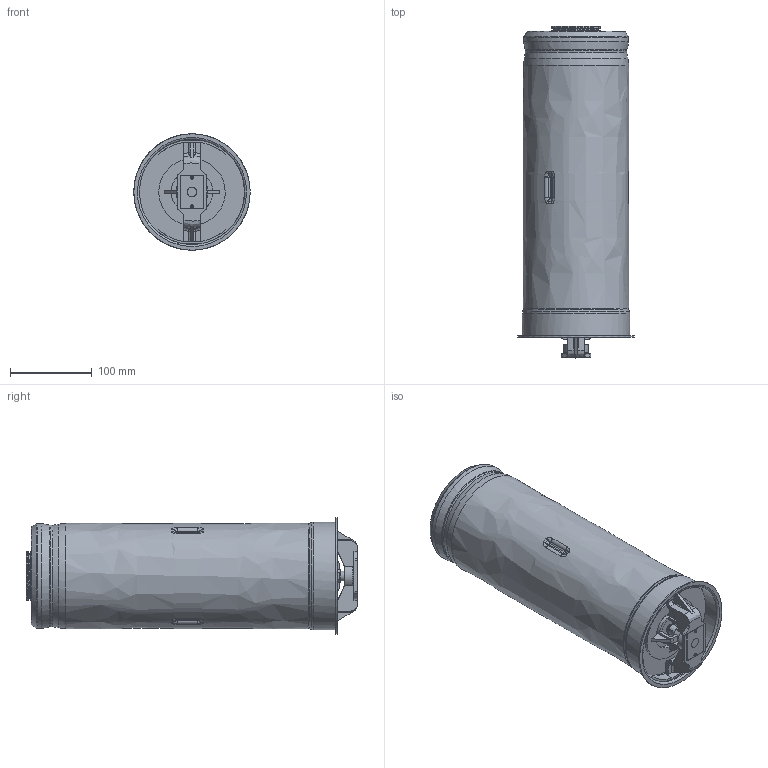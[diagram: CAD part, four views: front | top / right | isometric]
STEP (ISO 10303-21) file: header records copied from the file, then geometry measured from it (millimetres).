
FILE_DESCRIPTION((''),'2;1');
FILE_NAME('U:\Users\i.maeder\E440_450_460\30709100(340391)_E450.stp','2014-06-18T13:39:10',('User'),('SDRC'),'I-DEAS Master Series 9','UNIX','Yes');
FILE_SCHEMA(('AUTOMOTIVE_DESIGN { 1 0 10303 214 1 1 1 1 }'));
Length unit declared in the file: millimetre
Products named in the file (1): 30709100(340391)
Bounding box: 141.96 x 404.9 x 141.95 mm (x, y, z)
Volume: 4676753.9 mm3; surface area: 217882.1 mm2
Topology: 1 solids, 2 shells, 403 faces, 1042 edges, 696 vertices
Faces by surface type: bspline 403
Entity records: 15109 total; most frequent: CARTESIAN_POINT 9305, ORIENTED_EDGE 2008, EDGE_CURVE 1004, VERTEX_POINT 622, B_SPLINE_CURVE_WITH_KNOTS 487, EDGE_LOOP 434, FACE_OUTER_BOUND 403, ADVANCED_FACE 403
